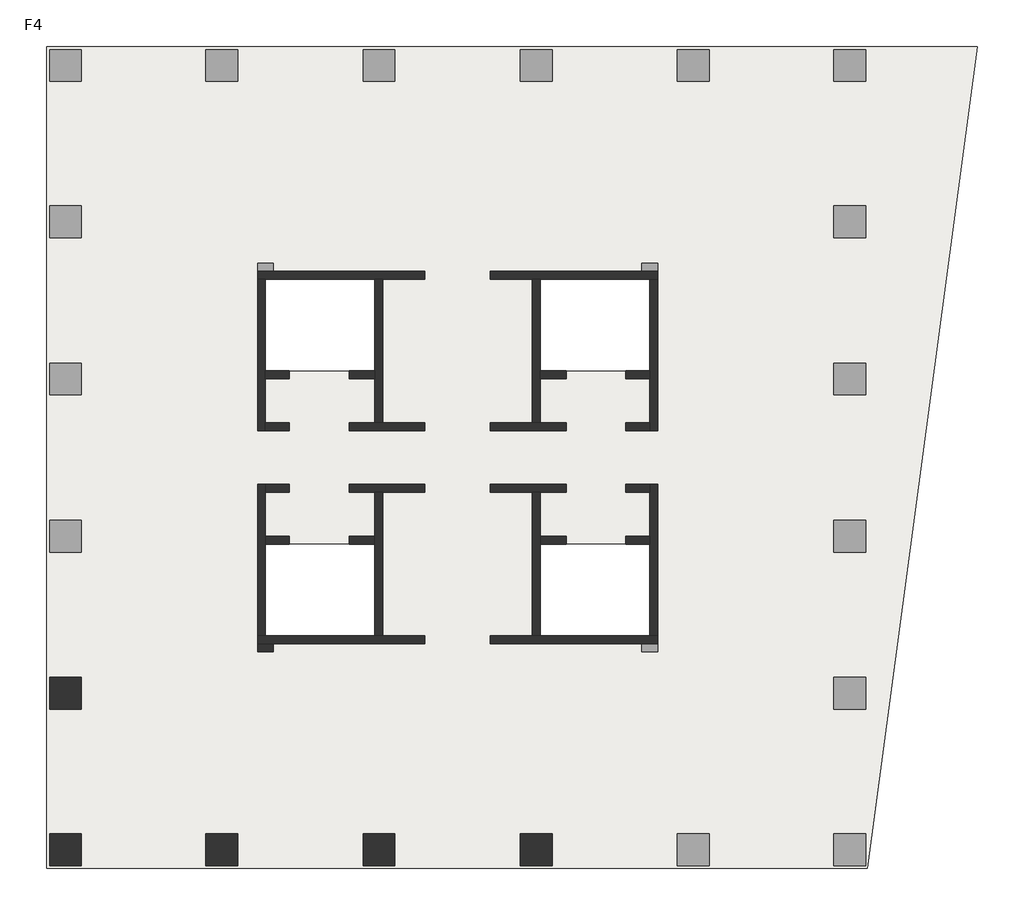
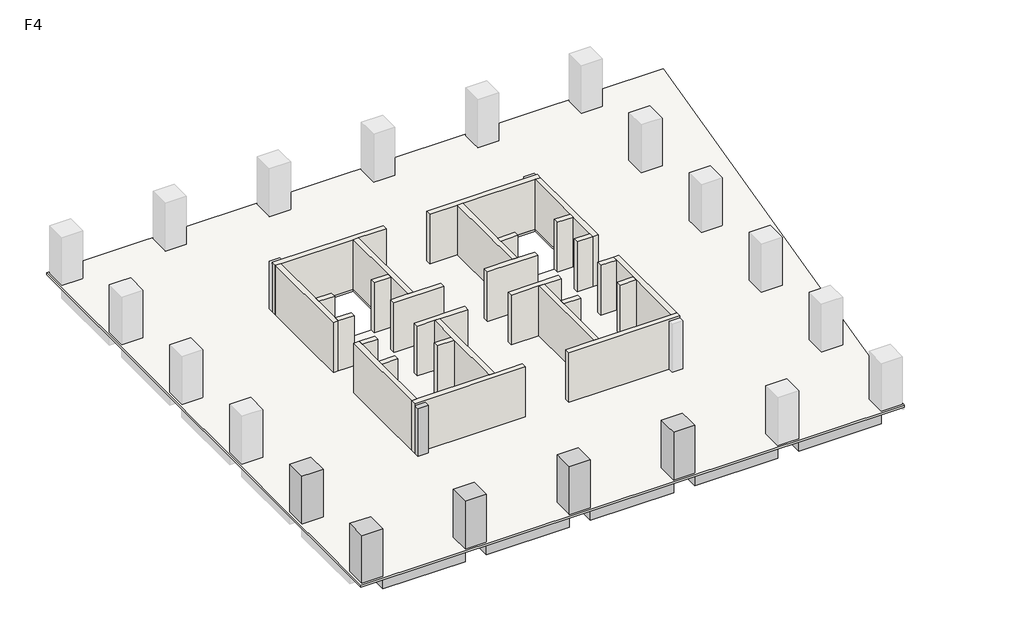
# One storey, part 1 of 2: 28 walls, 6 columns, 5 beams, 1 slab.
"""IFC4 building model written with IfcOpenShell, lengths in millimetres."""

import ifcopenshell
import ifcopenshell.guid

model = None  # the IFC model being written
_history = None  # IfcOwnerHistory: only IFC2X3 demands one
_inside = {}  # id of a spatial element -> (the spatial element, [elements in it])
_under = {}  # id of a project, library or spatial element -> (it, [spatial elements below it])
_declared = {}  # id of a project -> (the project, [libraries it declares])
_typed = {}  # id of a type object -> (the type object, [elements of that type])
_made_of = {}  # id of a material, layer set ... -> (it, [elements and type objects made of it])


def new_model(schema):
    """Start an empty IFC model of exactly this schema.

    Asked for "IFC4X3", IfcOpenShell would pick the latest addendum, in which some entities
    have other attributes; the version numbers below select the first issue.
    IFC2X3 requires an IfcOwnerHistory on every rooted entity: one is made here for all.
    """
    global model, _history
    if schema == "IFC4X3":
        model = ifcopenshell.file(schema_version=(4, 3, 0, 0))
    else:
        model = ifcopenshell.file(schema=schema)
    _inside.clear()
    _under.clear()
    _declared.clear()
    _typed.clear()
    _made_of.clear()
    _history = None
    if model.schema == "IFC2X3":
        org = make("IfcOrganization", Name="unknown")
        user = make(
            "IfcPersonAndOrganization",
            ThePerson=make("IfcPerson", FamilyName="unknown"),
            TheOrganization=org,
        )
        app = make(
            "IfcApplication",
            ApplicationDeveloper=org,
            Version="unknown",
            ApplicationFullName="unknown",
            ApplicationIdentifier="unknown",
        )
        _history = make(
            "IfcOwnerHistory",
            OwningUser=user,
            OwningApplication=app,
            ChangeAction="ADDED",
            CreationDate=0,
        )
    return model


def make(cls, **values):
    """One entity of the class cls with the attributes given. An attribute that is None is left unset."""
    return model.create_entity(
        cls, **{name: value for name, value in values.items() if value is not None}
    )


def rooted(cls, **values):
    """An entity with a GlobalId (a new one), such as an element, a storey or a relation."""
    return make(cls, GlobalId=ifcopenshell.guid.new(), OwnerHistory=_history, **values)


def si_unit(unit_type, name, prefix=None):
    """IfcSIUnit, for example si_unit("LENGTHUNIT", "METRE", prefix="MILLI")."""
    return make("IfcSIUnit", UnitType=unit_type, Prefix=prefix, Name=name)


def assignment(units):
    """IfcUnitAssignment: the units of a project."""
    return None if units is None else make("IfcUnitAssignment", Units=units)


def point(xyz):
    """IfcCartesianPoint."""
    return None if xyz is None else make("IfcCartesianPoint", Coordinates=xyz)


def direction(xyz):
    """IfcDirection."""
    return None if xyz is None else make("IfcDirection", DirectionRatios=xyz)


def frame(location, z_axis=None, x_axis=None):
    """IfcAxis2Placement3D, a coordinate frame: its origin and axes. An axis left out is left unset."""
    return make(
        "IfcAxis2Placement3D",
        Location=point(location),
        Axis=direction(z_axis),
        RefDirection=direction(x_axis),
    )


def origin():
    """The frame at (0, 0, 0) with its axes left unset."""
    return frame((0.0, 0.0, 0.0))


def place(relative_to, where):
    """IfcLocalPlacement: puts the frame where relative to a parent placement (None: the world)."""
    return make(
        "IfcLocalPlacement", PlacementRelTo=relative_to, RelativePlacement=where
    )


def context(
    kind, dimensions, precision=None, world=None, true_north=None, identifier=None
):
    """IfcGeometricRepresentationContext, for example the 3D "Model" context."""
    return make(
        "IfcGeometricRepresentationContext",
        ContextIdentifier=identifier,
        ContextType=kind,
        CoordinateSpaceDimension=dimensions,
        Precision=precision,
        WorldCoordinateSystem=world,
        TrueNorth=true_north,
    )


def project(units=None, contexts=None):
    """IfcProject with its units and contexts."""
    return rooted(
        "IfcProject",
        Name="project",
        RepresentationContexts=contexts,
        UnitsInContext=assignment(units),
    )


def spatial(cls, under=None, at=None, **own):
    """A site, building, storey or space (cls), placed at a placement, below another one or the project."""
    s = rooted(cls, ObjectPlacement=at, **own)
    if under is not None:
        _under.setdefault(under.id(), (under, []))[1].append(s)
    return s


def polyline(points):
    """IfcPolyline through the points."""
    return make("IfcPolyline", Points=[point(p) for p in points])


def outline(outer, holes=None, kind="AREA"):
    """IfcArbitraryClosedProfileDef: a profile drawn as a closed curve; with holes, ...WithVoids."""
    if holes is None:
        return make("IfcArbitraryClosedProfileDef", ProfileType=kind, OuterCurve=outer)
    return make(
        "IfcArbitraryProfileDefWithVoids",
        ProfileType=kind,
        OuterCurve=outer,
        InnerCurves=holes,
    )


def extrude(swept, where, along, depth):
    """IfcExtrudedAreaSolid: the profile swept, set in the frame where, extruded along a direction by depth."""
    return make(
        "IfcExtrudedAreaSolid",
        SweptArea=swept,
        Position=where,
        ExtrudedDirection=direction(along),
        Depth=depth,
    )


def faces_of(points, faces, orient=None, outer=None):
    """IfcFace entities. A face is a list of loops; a loop is a list of indices into points, from 0.

    orient and outer hold one flag for each loop. By default every Orientation is true, the
    first loop of a face is its IfcFaceOuterBound and the others are IfcFaceBound.
    """
    made = []
    for i, loops in enumerate(faces):
        bounds = []
        for j, loop in enumerate(loops):
            is_outer = j == 0 if outer is None else outer[i][j]
            bounds.append(
                make(
                    "IfcFaceOuterBound" if is_outer else "IfcFaceBound",
                    Bound=make("IfcPolyLoop", Polygon=[points[k] for k in loop]),
                    Orientation=True if orient is None else orient[i][j],
                )
            )
        made.append(make("IfcFace", Bounds=bounds))
    return made


def faceted_brep(points, faces, orient=None, outer=None, voids=None):
    """IfcFacetedBrep: a solid bounded by flat faces; with voids (closed shells), ...WithVoids."""
    shared = [point(p) for p in points]
    hull = make("IfcClosedShell", CfsFaces=faces_of(shared, faces, orient, outer))
    if voids is None:
        return make("IfcFacetedBrep", Outer=hull)
    return make(
        "IfcFacetedBrepWithVoids",
        Outer=hull,
        Voids=[
            make(cls, CfsFaces=faces_of(shared, fs, o, b)) for cls, fs, o, b in voids
        ],
    )


def shape(context_of_items, identifier, shape_type, items):
    """IfcShapeRepresentation: the items that make up one representation, for example the "Body"."""
    return make(
        "IfcShapeRepresentation",
        ContextOfItems=context_of_items,
        RepresentationIdentifier=identifier,
        RepresentationType=shape_type,
        Items=items,
    )


def made_of(thing, what):
    """Note that an element or type object is made of a material, layer set ...; save() writes the relation."""
    if what is not None:
        _made_of.setdefault(what.id(), (what, []))[1].append(thing)
    return thing


def element(
    cls,
    number,
    at=None,
    inside=None,
    cuts=None,
    type_object=None,
    material=None,
    context=None,
    identifier="Body",
    shape_type=None,
    held_by="IfcProductDefinitionShape",
    body=None,
    shapes=None,
    **own,
):
    """One element of the class cls, such as IfcWall. Its Tag is "e" and its number.

    at: its placement. inside: the storey or other place that contains it. cuts: it is an
    opening in that element (IfcRelVoidsElement). A single representation is given by context,
    identifier, shape_type and body (its items); several are given by shapes. held_by: the class
    of the entity that holds the representations. save() writes the other relations.
    """
    e = rooted(cls, Tag="e%d" % number, ObjectPlacement=at, **own)
    if body is not None:
        shapes = [shape(context, identifier, shape_type, body)]
    if shapes is not None:
        e.Representation = make(held_by, Representations=shapes)
    if inside is not None:
        _inside.setdefault(inside.id(), (inside, []))[1].append(e)
    if cuts is not None:
        rooted(
            "IfcRelVoidsElement", RelatingBuildingElement=cuts, RelatedOpeningElement=e
        )
    if type_object is not None:
        _typed.setdefault(type_object.id(), (type_object, []))[1].append(e)
    return made_of(e, material)


def aggregate(whole, parts):
    """IfcRelAggregates: a whole, such as a stair, and the parts it consists of."""
    return rooted("IfcRelAggregates", RelatingObject=whole, RelatedObjects=parts)


def save(model, path):
    """Write the relations noted so far, then the file.

    IfcRelAggregates (storeys below a building ...), IfcRelContainedInSpatialStructure (elements
    in a storey), IfcRelDefinesByType, IfcRelAssociatesMaterial and IfcRelDeclares: one each for
    every whole, place, type object, material and project.
    """
    for whole, parts in _under.values():
        aggregate(whole, parts)
    for where, things in _inside.values():
        rooted(
            "IfcRelContainedInSpatialStructure",
            RelatedElements=things,
            RelatingStructure=where,
        )
    for kind, things in _typed.values():
        rooted("IfcRelDefinesByType", RelatedObjects=things, RelatingType=kind)
    for what, things in _made_of.values():
        rooted("IfcRelAssociatesMaterial", RelatedObjects=things, RelatingMaterial=what)
    for by, libraries in _declared.values():
        rooted("IfcRelDeclares", RelatingContext=by, RelatedDefinitions=libraries)
    model.write(path)


model = new_model("IFC4")

# Units and contexts
model_context = context("Model", 3, world=origin())
ifc_project = project(units=[si_unit("LENGTHUNIT", "METRE", prefix="MILLI")], contexts=[model_context])

# Site, building, storey
site = spatial("IfcSite", under=ifc_project)
building = spatial("IfcBuilding", under=site)
storey = spatial("IfcBuildingStorey", under=building, Name="F4", Elevation=16000.0)

# Beams
placement = place(None, origin())
element("IfcBeam", 1, ObjectType="混凝土 - 矩形梁 : KL(5)-800x1000", at=placement, inside=storey, context=model_context, shape_type="SweptSolid", body=[
    extrude(outline(polyline([(-12472.6742169, -13948.9501342), (-12472.6742169, -13148.9501342), (-6222.6742169, -13148.9501342), (-6222.6742169, -13948.9501342), (-12472.6742169, -13948.9501342)])), frame((0.0, 0.0, 15000.0), z_axis=(0.0, 0.0, 1.0), x_axis=(1.0, 0.0, 0.0)), (0.0, 0.0, 1.0), 840.0),
    extrude(outline(polyline([(25327.3257831, -13148.9501342), (25327.3257831, -13948.9501342), (19077.3257831, -13948.9501342), (19077.3257831, -13148.9501342), (25327.3257831, -13148.9501342)])), frame((0.0, 0.0, 15000.0), z_axis=(0.0, 0.0, 1.0), x_axis=(1.0, 0.0, 0.0)), (0.0, 0.0, 1.0), 840.0),
    extrude(outline(polyline([(-4622.6742169, -13948.9501342), (-4622.6742169, -13148.9501342), (1677.3257831, -13148.9501342), (1677.3257831, -13948.9501342), (-4622.6742169, -13948.9501342)])), frame((0.0, 0.0, 15000.0), z_axis=(0.0, 0.0, 1.0), x_axis=(1.0, 0.0, 0.0)), (0.0, 0.0, 1.0), 840.0),
    extrude(outline(polyline([(3277.3257831, -13948.9501342), (3277.3257831, -13148.9501342), (9577.3257831, -13148.9501342), (9577.3257831, -13948.9501342), (3277.3257831, -13948.9501342)])), frame((0.0, 0.0, 15000.0), z_axis=(0.0, 0.0, 1.0), x_axis=(1.0, 0.0, 0.0)), (0.0, 0.0, 1.0), 840.0),
    extrude(outline(polyline([(11177.3257831, -13948.9501342), (11177.3257831, -13148.9501342), (17477.3257831, -13148.9501342), (17477.3257831, -13948.9501342), (11177.3257831, -13948.9501342)])), frame((0.0, 0.0, 15000.0), z_axis=(0.0, 0.0, 1.0), x_axis=(1.0, 0.0, 0.0)), (0.0, 0.0, 1.0), 840.0),
])
element("IfcBeam", 2, ObjectType="混凝土 - 矩形梁 : L1-800x500", at=placement, inside=storey, context=model_context, shape_type="Brep", body=[
    faceted_brep([(-12472.6742169, -5512.1353397, 15500.0), (-3746.9473979, -3341.556529, 15500.0), (-3173.6696907, -3198.9501342, 15500.0), (-3173.6696907, -3198.9501342, 15840.0), (-3746.9473979, -3341.556529, 15840.0), (-12472.6742169, -5512.1353397, 15840.0), (-3622.6742169, -3198.9501342, 15500.0), (-12472.6742169, -4687.7549784, 15500.0), (-3622.6742169, -2486.2624411, 15500.0), (-3622.6742169, -2798.9501342, 15500.0), (-12472.6742169, -4687.7549784, 15840.0), (-3622.6742169, -2486.2624411, 15840.0), (-3622.6742169, -3198.9501342, 15840.0)], [[[0, 1, 2, 3, 4, 5]], [[6, 2, 1, 0, 7, 8, 9]], [[8, 7, 10, 11]], [[2, 6, 12, 3]], [[9, 8, 11, 12, 6]], [[7, 0, 5, 10]], [[5, 4, 3, 12, 11, 10]]]),
])
element("IfcBeam", 3, ObjectType="混凝土 - 矩形梁 : L1-800x500", at=placement, inside=storey, context=model_context, shape_type="SweptSolid", body=[
    extrude(outline(polyline([(-3746.9473979, -3341.556529), (-3173.6696907, -3198.9501342), (-2898.7618154, -3198.9501342), (-4843.6893517, -12348.9501342), (-5661.5624638, -12348.9501342), (-3746.9473979, -3341.556529)])), frame((0.0, 0.0, 15500.0), z_axis=(0.0, 0.0, 1.0), x_axis=(1.0, 0.0, 0.0)), (0.0, 0.0, 1.0), 340.0),
])
element("IfcBeam", 4, ObjectType="混凝土 - 矩形梁 : L1-800x500", at=placement, inside=storey, context=model_context, shape_type="SweptSolid", body=[
    extrude(outline(polyline([(2877.3257831, -12348.9501342), (2077.3257831, -12348.9501342), (2077.3257831, -2798.9501342), (2877.3257831, -2798.9501342), (2877.3257831, -12348.9501342)])), frame((0.0, 0.0, 15500.0), z_axis=(0.0, 0.0, 1.0), x_axis=(1.0, 0.0, 0.0)), (0.0, 0.0, 1.0), 340.0),
])
element("IfcBeam", 5, ObjectType="混凝土 - 矩形梁 : L1-800x500", at=placement, inside=storey, context=model_context, shape_type="SweptSolid", body=[
    extrude(outline(polyline([(10777.3257831, -12348.9501342), (9977.3257831, -12348.9501342), (9977.3257831, -2798.9501342), (10777.3257831, -2798.9501342), (10777.3257831, -12348.9501342)])), frame((0.0, 0.0, 15500.0), z_axis=(0.0, 0.0, 1.0), x_axis=(1.0, 0.0, 0.0)), (0.0, 0.0, 1.0), 340.0),
])

# Columns
element("IfcColumn", 6, ObjectType="混凝土 - 矩形 - 柱 : Z1-1600x1600", at=placement, inside=storey, context=model_context, shape_type="Brep", body=[
    faceted_brep([(-12472.6742169, -4498.9501342, 16000.0), (-12472.6742169, -6098.9501342, 16000.0), (-14072.6742169, -6098.9501342, 16000.0), (-14072.6742169, -4498.9501342, 16000.0), (-12472.6742169, -4498.9501342, 19840.0), (-12472.6742169, -6098.9501342, 19840.0), (-13272.6742169, -6098.9501342, 19840.0), (-14072.6742169, -6098.9501342, 19840.0), (-14072.6742169, -6098.9501342, 19000.0), (-14072.6742169, -4498.9501342, 19840.0), (-14072.6742169, -4498.9501342, 19000.0), (-13272.6742169, -4498.9501342, 19840.0)], [[[0, 1, 2, 3]], [[1, 0, 4, 5]], [[2, 1, 5, 6, 7, 8]], [[3, 2, 8, 7, 9, 10]], [[0, 3, 10, 9, 11, 4]], [[5, 4, 11, 9, 7, 6]]]),
])
element("IfcColumn", 7, ObjectType="混凝土 - 矩形 - 柱 : Z1-1600x1600", at=placement, inside=storey, context=model_context, shape_type="SweptSolid", body=[
    extrude(outline(polyline([(-12472.6742169, -12348.9501342), (-12472.6742169, -13948.9501342), (-14072.6742169, -13948.9501342), (-14072.6742169, -12348.9501342), (-12472.6742169, -12348.9501342)])), frame((0.0, 0.0, 16000.0), z_axis=(0.0, 0.0, 1.0), x_axis=(1.0, 0.0, 0.0)), (0.0, 0.0, 1.0), 3840.0),
])
element("IfcColumn", 8, ObjectType="混凝土 - 矩形 - 柱 : Z1-1600x1600", at=placement, inside=storey, context=model_context, shape_type="Brep", body=[
    faceted_brep([(-4622.6742169, -12348.9501342, 16000.0), (-4622.6742169, -13948.9501342, 16000.0), (-6222.6742169, -13948.9501342, 16000.0), (-6222.6742169, -12348.9501342, 16000.0), (-4622.6742169, -12348.9501342, 19840.0), (-4622.6742169, -13148.9501342, 19840.0), (-4622.6742169, -13948.9501342, 19840.0), (-4622.6742169, -13948.9501342, 19000.0), (-6222.6742169, -13948.9501342, 19840.0), (-6222.6742169, -13948.9501342, 19000.0), (-6222.6742169, -13148.9501342, 19840.0), (-6222.6742169, -12348.9501342, 19840.0)], [[[0, 1, 2, 3]], [[1, 0, 4, 5, 6, 7]], [[2, 1, 7, 6, 8, 9]], [[3, 2, 9, 8, 10, 11]], [[0, 3, 11, 4]], [[6, 5, 4, 11, 10, 8]]]),
])
element("IfcColumn", 9, ObjectType="混凝土 - 矩形 - 柱 : Z1-1600x1600", at=placement, inside=storey, context=model_context, shape_type="Brep", body=[
    faceted_brep([(3277.3257831, -12348.9501342, 16000.0), (3277.3257831, -13948.9501342, 16000.0), (1677.3257831, -13948.9501342, 16000.0), (1677.3257831, -12348.9501342, 16000.0), (3277.3257831, -12348.9501342, 19840.0), (3277.3257831, -13148.9501342, 19840.0), (3277.3257831, -13948.9501342, 19840.0), (3277.3257831, -13948.9501342, 19000.0), (1677.3257831, -13948.9501342, 19840.0), (1677.3257831, -13948.9501342, 19000.0), (1677.3257831, -13148.9501342, 19840.0), (1677.3257831, -12348.9501342, 19840.0)], [[[0, 1, 2, 3]], [[1, 0, 4, 5, 6, 7]], [[2, 1, 7, 6, 8, 9]], [[3, 2, 9, 8, 10, 11]], [[0, 3, 11, 4]], [[6, 5, 4, 11, 10, 8]]]),
])
element("IfcColumn", 10, ObjectType="混凝土 - 矩形 - 柱 : Z1-1600x1600", at=placement, inside=storey, context=model_context, shape_type="Brep", body=[
    faceted_brep([(11177.3257831, -12348.9501342, 16000.0), (11177.3257831, -13948.9501342, 16000.0), (9577.3257831, -13948.9501342, 16000.0), (9577.3257831, -12348.9501342, 16000.0), (11177.3257831, -12348.9501342, 19840.0), (11177.3257831, -13148.9501342, 19840.0), (11177.3257831, -13948.9501342, 19840.0), (11177.3257831, -13948.9501342, 19000.0), (9577.3257831, -13948.9501342, 19840.0), (9577.3257831, -13948.9501342, 19000.0), (9577.3257831, -13148.9501342, 19840.0), (9577.3257831, -12348.9501342, 19840.0)], [[[0, 1, 2, 3]], [[1, 0, 4, 5, 6, 7]], [[2, 1, 7, 6, 8, 9]], [[3, 2, 9, 8, 10, 11]], [[0, 3, 11, 4]], [[6, 5, 4, 11, 10, 8]]]),
])
element("IfcColumn", 11, ObjectType="混凝土 - 矩形 - 柱 : Z2-800x800", at=placement, inside=storey, context=model_context, shape_type="SweptSolid", body=[
    extrude(outline(polyline([(-2822.6742169, -3198.9501342), (-3622.6742169, -3198.9501342), (-3622.6742169, -2798.9501342), (-2822.6742169, -2798.9501342), (-2822.6742169, -3198.9501342)])), frame((0.0, 0.0, 16000.0), z_axis=(0.0, 0.0, 1.0), x_axis=(1.0, 0.0, 0.0)), (0.0, 0.0, 1.0), 3840.0),
])

# Slab
element("IfcSlab", 12, ObjectType="LB-160", at=placement, inside=storey, context=model_context, shape_type="Brep", body=[
    faceted_brep([(32549.4477343, 27201.0498658, 15840.0), (32422.0087099, 26251.0498658, 15840.0), (27029.3257831, -13948.9501342, 15840.0), (27011.0393465, -14085.2672073, 15840.0), (-14222.6742169, -14085.2672073, 15840.0), (-14222.6742169, 27201.0498658, 15840.0), (2277.3257831, 15501.0498658, 15840.0), (-3222.6742169, 15501.0498658, 15840.0), (-3222.6742169, 10901.0498658, 15840.0), (2277.3257831, 10901.0498658, 15840.0), (2277.3257831, 2201.0498658, 15840.0), (-3222.6742169, 2201.0498658, 15840.0), (-3222.6742169, -2398.9501342, 15840.0), (2277.3257831, -2398.9501342, 15840.0), (16077.3257831, 2201.0498658, 15840.0), (10577.3257831, 2201.0498658, 15840.0), (10577.3257831, -2398.9501342, 15840.0), (16077.3257831, -2398.9501342, 15840.0), (16077.3257831, 15501.0498658, 15840.0), (10577.3257831, 15501.0498658, 15840.0), (10577.3257831, 10901.0498658, 15840.0), (16077.3257831, 10901.0498658, 15840.0), (32549.4477343, 27201.0498658, 16000.0), (-14222.6742169, 27201.0498658, 16000.0), (-14222.6742169, -14085.2672073, 16000.0), (27011.0393465, -14085.2672073, 16000.0), (2277.3257831, 15501.0498658, 16000.0), (2277.3257831, 10901.0498658, 16000.0), (-3222.6742169, 10901.0498658, 16000.0), (-3222.6742169, 15501.0498658, 16000.0), (2277.3257831, 2201.0498658, 16000.0), (2277.3257831, -2398.9501342, 16000.0), (-3222.6742169, -2398.9501342, 16000.0), (-3222.6742169, 2201.0498658, 16000.0), (16077.3257831, 2201.0498658, 16000.0), (16077.3257831, -2398.9501342, 16000.0), (10577.3257831, -2398.9501342, 16000.0), (10577.3257831, 2201.0498658, 16000.0), (16077.3257831, 15501.0498658, 16000.0), (16077.3257831, 10901.0498658, 16000.0), (10577.3257831, 10901.0498658, 16000.0), (10577.3257831, 15501.0498658, 16000.0)], [[[0, 1, 2, 3, 4, 5], [6, 7, 8, 9], [10, 11, 12, 13], [14, 15, 16, 17], [18, 19, 20, 21]], [[22, 23, 24, 25], [26, 27, 28, 29], [30, 31, 32, 33], [34, 35, 36, 37], [38, 39, 40, 41]], [[3, 2, 1, 0, 22, 25]], [[4, 3, 25, 24]], [[5, 4, 24, 23]], [[0, 5, 23, 22]], [[7, 6, 26, 29]], [[8, 7, 29, 28]], [[9, 8, 28, 27]], [[6, 9, 27, 26]], [[11, 10, 30, 33]], [[12, 11, 33, 32]], [[13, 12, 32, 31]], [[10, 13, 31, 30]], [[15, 14, 34, 37]], [[16, 15, 37, 36]], [[17, 16, 36, 35]], [[14, 17, 35, 34]], [[19, 18, 38, 41]], [[20, 19, 41, 40]], [[21, 20, 40, 39]], [[18, 21, 39, 38]]]),
])

# Walls
element("IfcWall", 13, ObjectType="剪力墙-400", at=placement, inside=storey, context=model_context, shape_type="Brep", body=[
    faceted_brep([(-3622.6742169, 15501.0498658, 16000.0), (-3222.6742169, 15501.0498658, 16000.0), (2277.3257831, 15501.0498658, 16000.0), (2677.3257831, 15501.0498658, 16000.0), (4777.3257831, 15501.0498658, 16000.0), (4777.3257831, 15501.0498658, 20000.0), (2677.3257831, 15501.0498658, 20000.0), (2277.3257831, 15501.0498658, 20000.0), (-3222.6742169, 15501.0498658, 20000.0), (-3622.6742169, 15501.0498658, 20000.0), (-3622.6742169, 15901.0498658, 16000.0), (-3622.6742169, 15901.0498658, 19840.0), (-3622.6742169, 15901.0498658, 20000.0), (4777.3257831, 15901.0498658, 20000.0), (4777.3257831, 15901.0498658, 16000.0), (-2822.6742169, 15901.0498658, 16000.0)], [[[0, 1, 2, 3, 4, 5, 6, 7, 8, 9]], [[10, 11, 12, 13, 14, 15]], [[4, 3, 2, 1, 0, 10, 15, 14]], [[5, 4, 14, 13]], [[9, 8, 7, 6, 5, 13, 12]], [[0, 9, 12, 11, 10]]]),
])
element("IfcWall", 14, ObjectType="剪力墙-400", at=placement, inside=storey, context=model_context, shape_type="Brep", body=[
    faceted_brep([(2277.3257831, 15501.0498658, 16000.0), (2277.3257831, 10901.0498658, 16000.0), (2277.3257831, 10501.0498658, 16000.0), (2277.3257831, 8301.0498658, 16000.0), (2277.3257831, 8301.0498658, 20000.0), (2277.3257831, 10501.0498658, 20000.0), (2277.3257831, 10901.0498658, 20000.0), (2277.3257831, 15501.0498658, 20000.0), (2677.3257831, 15501.0498658, 16000.0), (2677.3257831, 15501.0498658, 20000.0), (2677.3257831, 8301.0498658, 20000.0), (2677.3257831, 8301.0498658, 16000.0)], [[[0, 1, 2, 3, 4, 5, 6, 7]], [[8, 9, 10, 11]], [[3, 2, 1, 0, 8, 11]], [[7, 6, 5, 4, 10, 9]], [[0, 7, 9, 8]], [[4, 3, 11, 10]]]),
])
element("IfcWall", 15, ObjectType="剪力墙-400", at=placement, inside=storey, context=model_context, shape_type="Brep", body=[
    faceted_brep([(-3622.6742169, 15501.0498658, 16000.0), (-3622.6742169, 7901.0498658, 16000.0), (-3622.6742169, 7901.0498658, 20000.0), (-3622.6742169, 15501.0498658, 20000.0), (-3222.6742169, 15501.0498658, 16000.0), (-3222.6742169, 15501.0498658, 20000.0), (-3222.6742169, 10901.0498658, 20000.0), (-3222.6742169, 10501.0498658, 20000.0), (-3222.6742169, 8301.0498658, 20000.0), (-3222.6742169, 7901.0498658, 20000.0), (-3222.6742169, 7901.0498658, 16000.0), (-3222.6742169, 8301.0498658, 16000.0), (-3222.6742169, 10501.0498658, 16000.0), (-3222.6742169, 10901.0498658, 16000.0)], [[[0, 1, 2, 3]], [[4, 5, 6, 7, 8, 9, 10, 11, 12, 13]], [[1, 0, 4, 13, 12, 11, 10]], [[3, 2, 9, 8, 7, 6, 5]], [[0, 3, 5, 4]], [[2, 1, 10, 9]]]),
])
element("IfcWall", 16, ObjectType="剪力墙-400", at=placement, inside=storey, context=model_context, shape_type="SweptSolid", body=[
    extrude(outline(polyline([(-2022.6742169, 7901.0498658), (-3222.6742169, 7901.0498658), (-3222.6742169, 8301.0498658), (-2022.6742169, 8301.0498658), (-2022.6742169, 7901.0498658)])), frame((0.0, 0.0, 16000.0), z_axis=(0.0, 0.0, 1.0), x_axis=(1.0, 0.0, 0.0)), (0.0, 0.0, 1.0), 4000.0),
])
element("IfcWall", 17, ObjectType="剪力墙-400", at=placement, inside=storey, context=model_context, shape_type="Brep", body=[
    faceted_brep([(977.3257831, 7901.0498658, 16000.0), (4777.3257831, 7901.0498658, 16000.0), (4777.3257831, 7901.0498658, 20000.0), (977.3257831, 7901.0498658, 20000.0), (977.3257831, 8301.0498658, 16000.0), (977.3257831, 8301.0498658, 20000.0), (2277.3257831, 8301.0498658, 20000.0), (2677.3257831, 8301.0498658, 20000.0), (4777.3257831, 8301.0498658, 20000.0), (4777.3257831, 8301.0498658, 16000.0), (2677.3257831, 8301.0498658, 16000.0), (2277.3257831, 8301.0498658, 16000.0)], [[[0, 1, 2, 3]], [[4, 5, 6, 7, 8, 9, 10, 11]], [[1, 0, 4, 11, 10, 9]], [[2, 1, 9, 8]], [[3, 2, 8, 7, 6, 5]], [[0, 3, 5, 4]]]),
])
element("IfcWall", 18, ObjectType="剪力墙-400", at=placement, inside=storey, context=model_context, shape_type="SweptSolid", body=[
    extrude(outline(polyline([(-2022.6742169, 10501.0498658), (-3222.6742169, 10501.0498658), (-3222.6742169, 10901.0498658), (-2022.6742169, 10901.0498658), (-2022.6742169, 10501.0498658)])), frame((0.0, 0.0, 16000.0), z_axis=(0.0, 0.0, 1.0), x_axis=(1.0, 0.0, 0.0)), (0.0, 0.0, 1.0), 4000.0),
])
element("IfcWall", 19, ObjectType="剪力墙-400", at=placement, inside=storey, context=model_context, shape_type="SweptSolid", body=[
    extrude(outline(polyline([(2277.3257831, 10501.0498658), (977.3257831, 10501.0498658), (977.3257831, 10901.0498658), (2277.3257831, 10901.0498658), (2277.3257831, 10501.0498658)])), frame((0.0, 0.0, 16000.0), z_axis=(0.0, 0.0, 1.0), x_axis=(1.0, 0.0, 0.0)), (0.0, 0.0, 1.0), 4000.0),
])
element("IfcWall", 20, ObjectType="剪力墙-400", at=placement, inside=storey, context=model_context, shape_type="Brep", body=[
    faceted_brep([(16477.3257831, 15901.0498658, 16000.0), (15677.3257831, 15901.0498658, 16000.0), (8077.3257831, 15901.0498658, 16000.0), (8077.3257831, 15901.0498658, 20000.0), (16477.3257831, 15901.0498658, 20000.0), (16477.3257831, 15901.0498658, 19840.0), (16477.3257831, 15501.0498658, 16000.0), (16477.3257831, 15501.0498658, 20000.0), (16077.3257831, 15501.0498658, 20000.0), (10577.3257831, 15501.0498658, 20000.0), (10177.3257831, 15501.0498658, 20000.0), (8077.3257831, 15501.0498658, 20000.0), (8077.3257831, 15501.0498658, 16000.0), (10177.3257831, 15501.0498658, 16000.0), (10577.3257831, 15501.0498658, 16000.0), (16077.3257831, 15501.0498658, 16000.0)], [[[0, 1, 2, 3, 4, 5]], [[6, 7, 8, 9, 10, 11, 12, 13, 14, 15]], [[2, 1, 0, 6, 15, 14, 13, 12]], [[3, 2, 12, 11]], [[4, 3, 11, 10, 9, 8, 7]], [[0, 5, 4, 7, 6]]]),
])
element("IfcWall", 21, ObjectType="剪力墙-400", at=placement, inside=storey, context=model_context, shape_type="Brep", body=[
    faceted_brep([(10177.3257831, 15501.0498658, 16000.0), (10177.3257831, 8301.0498658, 16000.0), (10177.3257831, 8301.0498658, 20000.0), (10177.3257831, 15501.0498658, 20000.0), (10577.3257831, 15501.0498658, 16000.0), (10577.3257831, 15501.0498658, 20000.0), (10577.3257831, 10901.0498658, 20000.0), (10577.3257831, 10501.0498658, 20000.0), (10577.3257831, 8301.0498658, 20000.0), (10577.3257831, 8301.0498658, 16000.0), (10577.3257831, 10501.0498658, 16000.0), (10577.3257831, 10901.0498658, 16000.0)], [[[0, 1, 2, 3]], [[4, 5, 6, 7, 8, 9, 10, 11]], [[1, 0, 4, 11, 10, 9]], [[3, 2, 8, 7, 6, 5]], [[0, 3, 5, 4]], [[2, 1, 9, 8]]]),
])
element("IfcWall", 22, ObjectType="剪力墙-400", at=placement, inside=storey, context=model_context, shape_type="Brep", body=[
    faceted_brep([(16077.3257831, 15501.0498658, 16000.0), (16077.3257831, 10901.0498658, 16000.0), (16077.3257831, 10501.0498658, 16000.0), (16077.3257831, 8301.0498658, 16000.0), (16077.3257831, 7901.0498658, 16000.0), (16077.3257831, 7901.0498658, 20000.0), (16077.3257831, 8301.0498658, 20000.0), (16077.3257831, 10501.0498658, 20000.0), (16077.3257831, 10901.0498658, 20000.0), (16077.3257831, 15501.0498658, 20000.0), (16477.3257831, 15501.0498658, 16000.0), (16477.3257831, 15501.0498658, 20000.0), (16477.3257831, 7901.0498658, 20000.0), (16477.3257831, 7901.0498658, 16000.0)], [[[0, 1, 2, 3, 4, 5, 6, 7, 8, 9]], [[10, 11, 12, 13]], [[4, 3, 2, 1, 0, 10, 13]], [[9, 8, 7, 6, 5, 12, 11]], [[0, 9, 11, 10]], [[5, 4, 13, 12]]]),
])
element("IfcWall", 23, ObjectType="剪力墙-400", at=placement, inside=storey, context=model_context, shape_type="SweptSolid", body=[
    extrude(outline(polyline([(14877.3257831, 8301.0498658), (16077.3257831, 8301.0498658), (16077.3257831, 7901.0498658), (14877.3257831, 7901.0498658), (14877.3257831, 8301.0498658)])), frame((0.0, 0.0, 16000.0), z_axis=(0.0, 0.0, 1.0), x_axis=(1.0, 0.0, 0.0)), (0.0, 0.0, 1.0), 4000.0),
])
element("IfcWall", 24, ObjectType="剪力墙-400", at=placement, inside=storey, context=model_context, shape_type="Brep", body=[
    faceted_brep([(11877.3257831, 8301.0498658, 16000.0), (10577.3257831, 8301.0498658, 16000.0), (10177.3257831, 8301.0498658, 16000.0), (8077.3257831, 8301.0498658, 16000.0), (8077.3257831, 8301.0498658, 20000.0), (10177.3257831, 8301.0498658, 20000.0), (10577.3257831, 8301.0498658, 20000.0), (11877.3257831, 8301.0498658, 20000.0), (11877.3257831, 7901.0498658, 16000.0), (11877.3257831, 7901.0498658, 20000.0), (8077.3257831, 7901.0498658, 20000.0), (8077.3257831, 7901.0498658, 16000.0)], [[[0, 1, 2, 3, 4, 5, 6, 7]], [[8, 9, 10, 11]], [[3, 2, 1, 0, 8, 11]], [[4, 3, 11, 10]], [[7, 6, 5, 4, 10, 9]], [[0, 7, 9, 8]]]),
])
element("IfcWall", 25, ObjectType="剪力墙-400", at=placement, inside=storey, context=model_context, shape_type="SweptSolid", body=[
    extrude(outline(polyline([(14877.3257831, 10901.0498658), (16077.3257831, 10901.0498658), (16077.3257831, 10501.0498658), (14877.3257831, 10501.0498658), (14877.3257831, 10901.0498658)])), frame((0.0, 0.0, 16000.0), z_axis=(0.0, 0.0, 1.0), x_axis=(1.0, 0.0, 0.0)), (0.0, 0.0, 1.0), 4000.0),
])
element("IfcWall", 26, ObjectType="剪力墙-400", at=placement, inside=storey, context=model_context, shape_type="SweptSolid", body=[
    extrude(outline(polyline([(10577.3257831, 10901.0498658), (11877.3257831, 10901.0498658), (11877.3257831, 10501.0498658), (10577.3257831, 10501.0498658), (10577.3257831, 10901.0498658)])), frame((0.0, 0.0, 16000.0), z_axis=(0.0, 0.0, 1.0), x_axis=(1.0, 0.0, 0.0)), (0.0, 0.0, 1.0), 4000.0),
])
element("IfcWall", 27, ObjectType="剪力墙-400", at=placement, inside=storey, context=model_context, shape_type="Brep", body=[
    faceted_brep([(-3622.6742169, -2798.9501342, 16000.0), (-2822.6742169, -2798.9501342, 16000.0), (4777.3257831, -2798.9501342, 16000.0), (4777.3257831, -2798.9501342, 20000.0), (-3622.6742169, -2798.9501342, 20000.0), (-3622.6742169, -2798.9501342, 19840.0), (-3622.6742169, -2398.9501342, 16000.0), (-3622.6742169, -2398.9501342, 20000.0), (-3222.6742169, -2398.9501342, 20000.0), (2277.3257831, -2398.9501342, 20000.0), (2677.3257831, -2398.9501342, 20000.0), (4777.3257831, -2398.9501342, 20000.0), (4777.3257831, -2398.9501342, 16000.0), (2677.3257831, -2398.9501342, 16000.0), (2277.3257831, -2398.9501342, 16000.0), (-3222.6742169, -2398.9501342, 16000.0)], [[[0, 1, 2, 3, 4, 5]], [[6, 7, 8, 9, 10, 11, 12, 13, 14, 15]], [[2, 1, 0, 6, 15, 14, 13, 12]], [[3, 2, 12, 11]], [[4, 3, 11, 10, 9, 8, 7]], [[0, 5, 4, 7, 6]]]),
])
element("IfcWall", 28, ObjectType="剪力墙-400", at=placement, inside=storey, context=model_context, shape_type="Brep", body=[
    faceted_brep([(2677.3257831, -2398.9501342, 16000.0), (2677.3257831, 4801.0498658, 16000.0), (2677.3257831, 4801.0498658, 20000.0), (2677.3257831, -2398.9501342, 20000.0), (2277.3257831, -2398.9501342, 16000.0), (2277.3257831, -2398.9501342, 20000.0), (2277.3257831, 2201.0498658, 20000.0), (2277.3257831, 2601.0498658, 20000.0), (2277.3257831, 4801.0498658, 20000.0), (2277.3257831, 4801.0498658, 16000.0), (2277.3257831, 2601.0498658, 16000.0), (2277.3257831, 2201.0498658, 16000.0)], [[[0, 1, 2, 3]], [[4, 5, 6, 7, 8, 9, 10, 11]], [[1, 0, 4, 11, 10, 9]], [[3, 2, 8, 7, 6, 5]], [[0, 3, 5, 4]], [[2, 1, 9, 8]]]),
])
element("IfcWall", 29, ObjectType="剪力墙-400", at=placement, inside=storey, context=model_context, shape_type="Brep", body=[
    faceted_brep([(-3222.6742169, -2398.9501342, 16000.0), (-3222.6742169, 2201.0498658, 16000.0), (-3222.6742169, 2601.0498658, 16000.0), (-3222.6742169, 4801.0498658, 16000.0), (-3222.6742169, 5201.0498658, 16000.0), (-3222.6742169, 5201.0498658, 20000.0), (-3222.6742169, 4801.0498658, 20000.0), (-3222.6742169, 2601.0498658, 20000.0), (-3222.6742169, 2201.0498658, 20000.0), (-3222.6742169, -2398.9501342, 20000.0), (-3622.6742169, -2398.9501342, 16000.0), (-3622.6742169, -2398.9501342, 20000.0), (-3622.6742169, 5201.0498658, 20000.0), (-3622.6742169, 5201.0498658, 16000.0)], [[[0, 1, 2, 3, 4, 5, 6, 7, 8, 9]], [[10, 11, 12, 13]], [[4, 3, 2, 1, 0, 10, 13]], [[9, 8, 7, 6, 5, 12, 11]], [[0, 9, 11, 10]], [[5, 4, 13, 12]]]),
])
element("IfcWall", 30, ObjectType="剪力墙-400", at=placement, inside=storey, context=model_context, shape_type="SweptSolid", body=[
    extrude(outline(polyline([(-2022.6742169, 4801.0498658), (-3222.6742169, 4801.0498658), (-3222.6742169, 5201.0498658), (-2022.6742169, 5201.0498658), (-2022.6742169, 4801.0498658)])), frame((0.0, 0.0, 16000.0), z_axis=(0.0, 0.0, 1.0), x_axis=(1.0, 0.0, 0.0)), (0.0, 0.0, 1.0), 4000.0),
])
element("IfcWall", 31, ObjectType="剪力墙-400", at=placement, inside=storey, context=model_context, shape_type="Brep", body=[
    faceted_brep([(977.3257831, 4801.0498658, 16000.0), (2277.3257831, 4801.0498658, 16000.0), (2677.3257831, 4801.0498658, 16000.0), (4777.3257831, 4801.0498658, 16000.0), (4777.3257831, 4801.0498658, 20000.0), (2677.3257831, 4801.0498658, 20000.0), (2277.3257831, 4801.0498658, 20000.0), (977.3257831, 4801.0498658, 20000.0), (977.3257831, 5201.0498658, 16000.0), (977.3257831, 5201.0498658, 20000.0), (4777.3257831, 5201.0498658, 20000.0), (4777.3257831, 5201.0498658, 16000.0)], [[[0, 1, 2, 3, 4, 5, 6, 7]], [[8, 9, 10, 11]], [[3, 2, 1, 0, 8, 11]], [[4, 3, 11, 10]], [[7, 6, 5, 4, 10, 9]], [[0, 7, 9, 8]]]),
])
element("IfcWall", 32, ObjectType="剪力墙-400", at=placement, inside=storey, context=model_context, shape_type="SweptSolid", body=[
    extrude(outline(polyline([(-2022.6742169, 2201.0498658), (-3222.6742169, 2201.0498658), (-3222.6742169, 2601.0498658), (-2022.6742169, 2601.0498658), (-2022.6742169, 2201.0498658)])), frame((0.0, 0.0, 16000.0), z_axis=(0.0, 0.0, 1.0), x_axis=(1.0, 0.0, 0.0)), (0.0, 0.0, 1.0), 4000.0),
])
element("IfcWall", 33, ObjectType="剪力墙-400", at=placement, inside=storey, context=model_context, shape_type="SweptSolid", body=[
    extrude(outline(polyline([(2277.3257831, 2201.0498658), (977.3257831, 2201.0498658), (977.3257831, 2601.0498658), (2277.3257831, 2601.0498658), (2277.3257831, 2201.0498658)])), frame((0.0, 0.0, 16000.0), z_axis=(0.0, 0.0, 1.0), x_axis=(1.0, 0.0, 0.0)), (0.0, 0.0, 1.0), 4000.0),
])
element("IfcWall", 34, ObjectType="剪力墙-400", at=placement, inside=storey, context=model_context, shape_type="Brep", body=[
    faceted_brep([(16477.3257831, -2398.9501342, 16000.0), (16077.3257831, -2398.9501342, 16000.0), (10577.3257831, -2398.9501342, 16000.0), (10177.3257831, -2398.9501342, 16000.0), (8077.3257831, -2398.9501342, 16000.0), (8077.3257831, -2398.9501342, 20000.0), (10177.3257831, -2398.9501342, 20000.0), (10577.3257831, -2398.9501342, 20000.0), (16077.3257831, -2398.9501342, 20000.0), (16477.3257831, -2398.9501342, 20000.0), (16477.3257831, -2798.9501342, 16000.0), (16477.3257831, -2798.9501342, 19840.0), (16477.3257831, -2798.9501342, 20000.0), (8077.3257831, -2798.9501342, 20000.0), (8077.3257831, -2798.9501342, 16000.0), (15677.3257831, -2798.9501342, 16000.0)], [[[0, 1, 2, 3, 4, 5, 6, 7, 8, 9]], [[10, 11, 12, 13, 14, 15]], [[4, 3, 2, 1, 0, 10, 15, 14]], [[5, 4, 14, 13]], [[9, 8, 7, 6, 5, 13, 12]], [[0, 9, 12, 11, 10]]]),
])
element("IfcWall", 35, ObjectType="剪力墙-400", at=placement, inside=storey, context=model_context, shape_type="Brep", body=[
    faceted_brep([(10577.3257831, -2398.9501342, 16000.0), (10577.3257831, 2201.0498658, 16000.0), (10577.3257831, 2601.0498658, 16000.0), (10577.3257831, 4801.0498658, 16000.0), (10577.3257831, 4801.0498658, 20000.0), (10577.3257831, 2601.0498658, 20000.0), (10577.3257831, 2201.0498658, 20000.0), (10577.3257831, -2398.9501342, 20000.0), (10177.3257831, -2398.9501342, 16000.0), (10177.3257831, -2398.9501342, 20000.0), (10177.3257831, 4801.0498658, 20000.0), (10177.3257831, 4801.0498658, 16000.0)], [[[0, 1, 2, 3, 4, 5, 6, 7]], [[8, 9, 10, 11]], [[3, 2, 1, 0, 8, 11]], [[7, 6, 5, 4, 10, 9]], [[0, 7, 9, 8]], [[4, 3, 11, 10]]]),
])
element("IfcWall", 36, ObjectType="剪力墙-400", at=placement, inside=storey, context=model_context, shape_type="Brep", body=[
    faceted_brep([(16477.3257831, -2398.9501342, 16000.0), (16477.3257831, 5201.0498658, 16000.0), (16477.3257831, 5201.0498658, 20000.0), (16477.3257831, -2398.9501342, 20000.0), (16077.3257831, -2398.9501342, 16000.0), (16077.3257831, -2398.9501342, 20000.0), (16077.3257831, 2201.0498658, 20000.0), (16077.3257831, 2601.0498658, 20000.0), (16077.3257831, 4801.0498658, 20000.0), (16077.3257831, 5201.0498658, 20000.0), (16077.3257831, 5201.0498658, 16000.0), (16077.3257831, 4801.0498658, 16000.0), (16077.3257831, 2601.0498658, 16000.0), (16077.3257831, 2201.0498658, 16000.0)], [[[0, 1, 2, 3]], [[4, 5, 6, 7, 8, 9, 10, 11, 12, 13]], [[1, 0, 4, 13, 12, 11, 10]], [[3, 2, 9, 8, 7, 6, 5]], [[0, 3, 5, 4]], [[2, 1, 10, 9]]]),
])
element("IfcWall", 37, ObjectType="剪力墙-400", at=placement, inside=storey, context=model_context, shape_type="SweptSolid", body=[
    extrude(outline(polyline([(14877.3257831, 5201.0498658), (16077.3257831, 5201.0498658), (16077.3257831, 4801.0498658), (14877.3257831, 4801.0498658), (14877.3257831, 5201.0498658)])), frame((0.0, 0.0, 16000.0), z_axis=(0.0, 0.0, 1.0), x_axis=(1.0, 0.0, 0.0)), (0.0, 0.0, 1.0), 4000.0),
])
element("IfcWall", 38, ObjectType="剪力墙-400", at=placement, inside=storey, context=model_context, shape_type="Brep", body=[
    faceted_brep([(11877.3257831, 5201.0498658, 16000.0), (8077.3257831, 5201.0498658, 16000.0), (8077.3257831, 5201.0498658, 20000.0), (11877.3257831, 5201.0498658, 20000.0), (11877.3257831, 4801.0498658, 16000.0), (11877.3257831, 4801.0498658, 20000.0), (10577.3257831, 4801.0498658, 20000.0), (10177.3257831, 4801.0498658, 20000.0), (8077.3257831, 4801.0498658, 20000.0), (8077.3257831, 4801.0498658, 16000.0), (10177.3257831, 4801.0498658, 16000.0), (10577.3257831, 4801.0498658, 16000.0)], [[[0, 1, 2, 3]], [[4, 5, 6, 7, 8, 9, 10, 11]], [[1, 0, 4, 11, 10, 9]], [[2, 1, 9, 8]], [[3, 2, 8, 7, 6, 5]], [[0, 3, 5, 4]]]),
])
element("IfcWall", 39, ObjectType="剪力墙-400", at=placement, inside=storey, context=model_context, shape_type="SweptSolid", body=[
    extrude(outline(polyline([(14877.3257831, 2601.0498658), (16077.3257831, 2601.0498658), (16077.3257831, 2201.0498658), (14877.3257831, 2201.0498658), (14877.3257831, 2601.0498658)])), frame((0.0, 0.0, 16000.0), z_axis=(0.0, 0.0, 1.0), x_axis=(1.0, 0.0, 0.0)), (0.0, 0.0, 1.0), 4000.0),
])
element("IfcWall", 40, ObjectType="剪力墙-400", at=placement, inside=storey, context=model_context, shape_type="SweptSolid", body=[
    extrude(outline(polyline([(10577.3257831, 2601.0498658), (11877.3257831, 2601.0498658), (11877.3257831, 2201.0498658), (10577.3257831, 2201.0498658), (10577.3257831, 2601.0498658)])), frame((0.0, 0.0, 16000.0), z_axis=(0.0, 0.0, 1.0), x_axis=(1.0, 0.0, 0.0)), (0.0, 0.0, 1.0), 4000.0),
])

save(model, "model.ifc")
